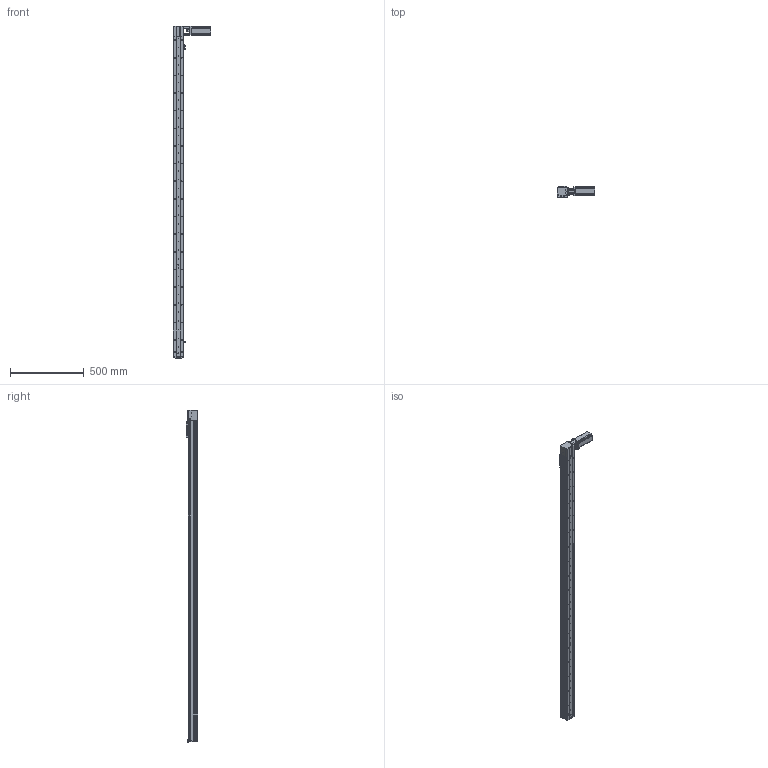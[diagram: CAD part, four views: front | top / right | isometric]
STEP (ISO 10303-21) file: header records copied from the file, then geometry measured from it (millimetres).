
FILE_DESCRIPTION (( 'STEP AP214' ), '1' );
FILE_NAME ('KSD68BS-S2000-MRT-CR.STEP', '2019-08-27T07:42:01', ( '微软用户' ), ( '微软中国' ), 'SwSTEP 2.0', 'SolidWorks 2014', '' );
FILE_SCHEMA (( 'AUTOMOTIVE_DESIGN' ));
Length unit declared in the file: millimetre
Products named in the file (13): 68单导轨全封闭同步带安装板; 感应片68宽全封闭; U倰嫖萇EEㄜSX672; 台达ECMA－C20604AS伺服电机（400W); KSD68BS 2000行程底板全封闭; KSD68BS-S2000-MRT-CR; 100遵鎮湛假蚾啣1; KSD68BS 2000行程盖板全封闭; 68遵裔啣揤啣1; 68宽单导轨全封闭丝杆传动安装板1防护罩; KSD68BS 2000行程侧板全封闭; 68宽单导轨全封闭同步带端板; 68单导轨全封闭同步带电机座左
Assembly tree (16 placements, depth 2):
  KSD68BS-S2000-MRT-CR
    KSD68BS 2000行程底板全封闭
    台达ECMA－C20604AS伺服电机（400W)
    U倰嫖萇EEㄜSX672  x3
    感应片68宽全封闭
    68单导轨全封闭同步带安装板
    68单导轨全封闭同步带电机座左
    68宽单导轨全封闭同步带端板
    KSD68BS 2000行程侧板全封闭  x2
    68宽单导轨全封闭丝杆传动安装板1防护罩
    68遵裔啣揤啣1  x2
    KSD68BS 2000行程盖板全封闭
    100遵鎮湛假蚾啣1
Bounding box: 252.7 x 77 x 2258.1 mm (x, y, z)
Volume: 3832450.3 mm3; surface area: 1569137.5 mm2
Topology: 17 solids, 17 shells, 1609 faces, 4678 edges, 2970 vertices
Faces by surface type: cylinder 803, plane 602, cone 204
Entity records: 53562 total; most frequent: CARTESIAN_POINT 9407, DIRECTION 7869, ORIENTED_EDGE 7536, EDGE_CURVE 3768, AXIS2_PLACEMENT_3D 2892, VERTEX_POINT 2468, LINE 2085, VECTOR 2085
